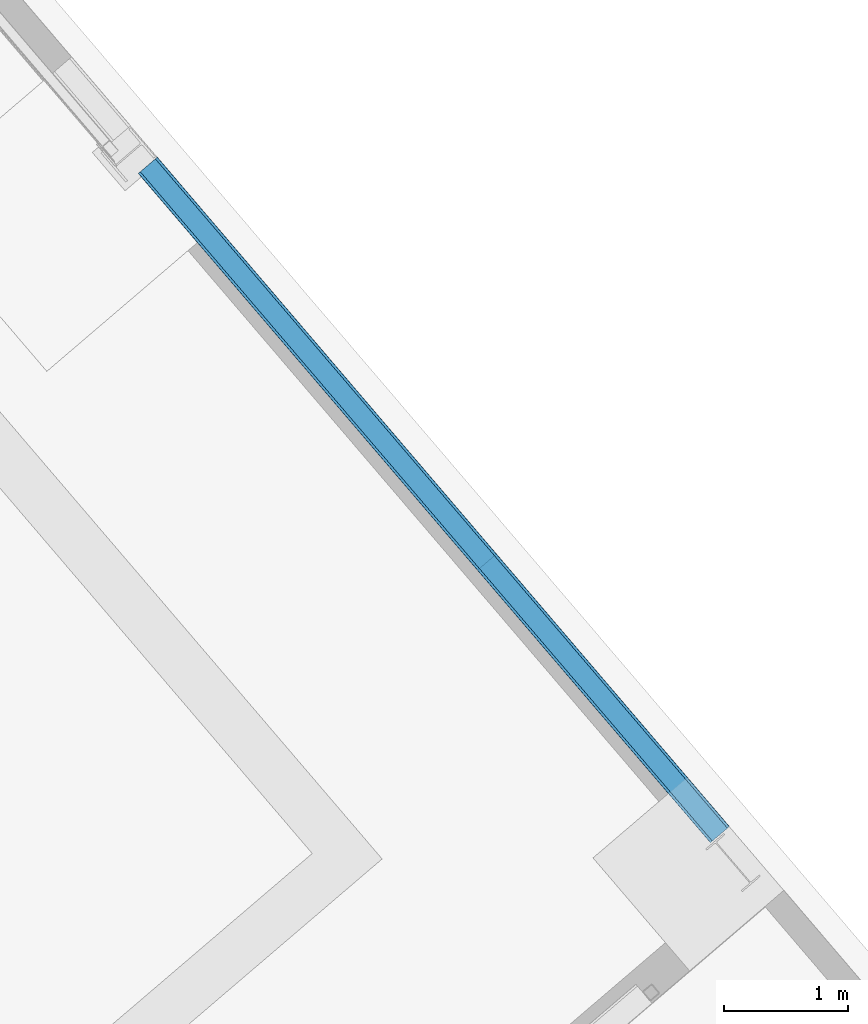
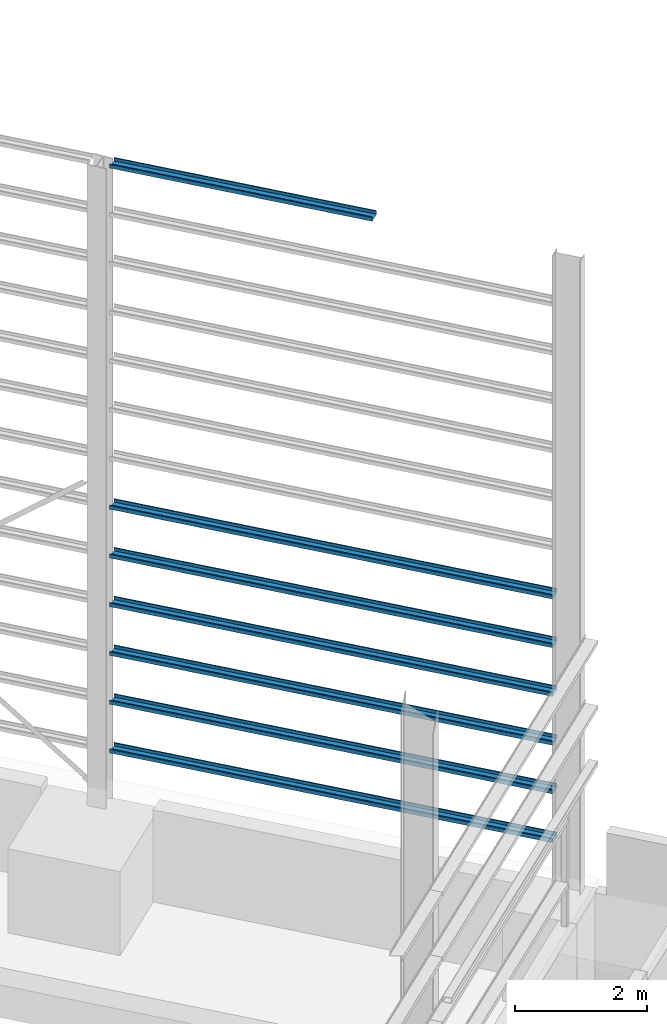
# One storey, part 25 of 41: 7 beams, 1 element without a shape of its own.
"""IFC2X3 building model written with IfcOpenShell, lengths in millimetres."""

from ifc_helpers import new_model, entity, si_unit, converted_unit, derived_unit, direction, frame, frame_2d, origin, place, context, subcontext, project, spatial, polyline, circle_curve, parameter, trimmed, segment, composite_curve, outline, extrude, material, type_object, element, aggregate, save


model = new_model("IFC2X3")

# Units and contexts
model_context = context("Model", 3, precision=0.01, world=origin(), true_north=direction((6.123031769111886e-17, 1.0)))
body_context = subcontext(model_context, "Body", "Model", "MODEL_VIEW")
ifc_project = project(units=[si_unit("LENGTHUNIT", "METRE", prefix="MILLI"), si_unit("AREAUNIT", "SQUARE_METRE"), si_unit("VOLUMEUNIT", "CUBIC_METRE"), converted_unit("PLANEANGLEUNIT", "DEGREE", entity("IfcRatioMeasure", 0.017453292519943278), si_unit("PLANEANGLEUNIT", "RADIAN"), dimensions=[0, 0, 0, 0, 0, 0, 0]), si_unit("MASSUNIT", "GRAM", prefix="KILO"), derived_unit("MASSDENSITYUNIT", [(si_unit("MASSUNIT", "GRAM", prefix="KILO"), 1), (si_unit("LENGTHUNIT", "METRE"), -3)]), derived_unit("MOMENTOFINERTIAUNIT", [(si_unit("LENGTHUNIT", "METRE"), 4)]), si_unit("TIMEUNIT", "SECOND"), si_unit("FREQUENCYUNIT", "HERTZ"), si_unit("THERMODYNAMICTEMPERATUREUNIT", "DEGREE_CELSIUS"), derived_unit("THERMALTRANSMITTANCEUNIT", [(si_unit("MASSUNIT", "GRAM", prefix="KILO"), 1), (si_unit("THERMODYNAMICTEMPERATUREUNIT", "KELVIN"), -1), (si_unit("TIMEUNIT", "SECOND"), -3)]), derived_unit("VOLUMETRICFLOWRATEUNIT", [(si_unit("LENGTHUNIT", "METRE"), 3), (si_unit("TIMEUNIT", "SECOND"), -1)]), derived_unit("MASSFLOWRATEUNIT", [(si_unit("MASSUNIT", "GRAM", prefix="KILO"), 1), (si_unit("TIMEUNIT", "SECOND"), -1)]), derived_unit("ROTATIONALFREQUENCYUNIT", [(si_unit("TIMEUNIT", "SECOND"), -1)]), si_unit("ELECTRICCURRENTUNIT", "AMPERE"), si_unit("ELECTRICVOLTAGEUNIT", "VOLT"), si_unit("POWERUNIT", "WATT"), si_unit("FORCEUNIT", "NEWTON", prefix="KILO"), si_unit("ILLUMINANCEUNIT", "LUX"), si_unit("LUMINOUSFLUXUNIT", "LUMEN"), si_unit("LUMINOUSINTENSITYUNIT", "CANDELA"), derived_unit("USERDEFINED", [(si_unit("MASSUNIT", "GRAM", prefix="KILO"), -1), (si_unit("LENGTHUNIT", "METRE"), -2), (si_unit("TIMEUNIT", "SECOND"), 3), (si_unit("LUMINOUSFLUXUNIT", "LUMEN"), 1)]), derived_unit("SOUNDPOWERUNIT", [(si_unit("MASSUNIT", "GRAM", prefix="KILO"), 1), (si_unit("LENGTHUNIT", "METRE"), 2), (si_unit("TIMEUNIT", "SECOND"), -3)]), derived_unit("LINEARVELOCITYUNIT", [(si_unit("LENGTHUNIT", "METRE"), 1), (si_unit("TIMEUNIT", "SECOND"), -1)]), si_unit("PRESSUREUNIT", "PASCAL"), derived_unit("USERDEFINED", [(si_unit("LENGTHUNIT", "METRE"), -2), (si_unit("MASSUNIT", "GRAM", prefix="KILO"), 1), (si_unit("TIMEUNIT", "SECOND"), -2)]), derived_unit("LINEARFORCEUNIT", [(si_unit("MASSUNIT", "GRAM", prefix="KILO"), 1), (si_unit("LENGTHUNIT", "METRE"), 1), (si_unit("TIMEUNIT", "SECOND"), -2), (si_unit("LENGTHUNIT", "METRE"), -1)]), derived_unit("PLANARFORCEUNIT", [(si_unit("MASSUNIT", "GRAM", prefix="KILO"), 1), (si_unit("LENGTHUNIT", "METRE"), 1), (si_unit("TIMEUNIT", "SECOND"), -2), (si_unit("LENGTHUNIT", "METRE"), -2)])], contexts=[model_context])

# Site, building, storey
site_placement = place(None, frame((962.4174930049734, -6014.433753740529, 0.0), z_axis=(0.0, 0.0, 1.0), x_axis=(0.7601792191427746, 0.649713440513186, 0.0)))
site = spatial("IfcSite", under=ifc_project, at=site_placement, Name="Default", CompositionType="ELEMENT")
building_placement = place(site_placement, origin())
building = spatial("IfcBuilding", under=site, at=building_placement, CompositionType="ELEMENT")
storey_placement = place(building_placement, origin())
storey = spatial("IfcBuildingStorey", under=building, at=storey_placement, Name="Datum", CompositionType="ELEMENT", Elevation=0.0)

# Assembly, beams
assembly_placement = place(building_placement, origin())
assembly = element("IfcElementAssembly", 1, at=assembly_placement, inside=storey, Name="Structural Beam System:Structural Beam System 1", ObjectType="Structural Beam System:Structural Beam System 1", AssemblyPlace="NOTDEFINED", PredefinedType="BEAM_GRID")
ifc_material = material(Name="Metal - Light Gauge")
beam_type = type_object("IfcBeamType", Name="ADSK_AUS_Light Gauge-Joists:C20015", PredefinedType="NOTDEFINED")
beam_1_placement = place(building_placement, frame((185748.56020470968, -22751.585747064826, 11413.962485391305), z_axis=(0.0, 0.0, 1.0), x_axis=(0.0, 1.0, 0.0)))
beam_1 = element("IfcBeam", 2, at=beam_1_placement, type_object=beam_type, material=ifc_material, Name="ADSK_AUS_Light Gauge-Joists:C20015", ObjectType="ADSK_AUS_Light Gauge-Joists:C20015", context=body_context, shape_type="SweptSolid", body=[
    extrude(outline(composite_curve([segment(polyline([(-25.691849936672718, -101.50000000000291), (39.49184993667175, -101.50000000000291)]), True, "CONTINUOUS"), segment(trimmed(circle_curve(frame_2d((39.49184993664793, -98.8418499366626), x_axis=(0.0, -1.0)), 2.6581500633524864), [parameter(0.0)], [parameter(89.99999999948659)], True, "PARAMETER"), True, "CONTINUOUS"), segment(polyline([(42.15000000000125, -98.8418499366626), (42.15000000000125, 98.84184993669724)]), True, "CONTINUOUS"), segment(trimmed(circle_curve(frame_2d((39.49184993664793, 98.84184993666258), x_axis=(1.0, 0.0)), 2.6581500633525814), [parameter(0.0)], [parameter(89.99999999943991)], True, "PARAMETER"), True, "CONTINUOUS"), segment(polyline([(39.491849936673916, 101.50000000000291), (-25.691849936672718, 101.50000000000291)]), True, "CONTINUOUS"), segment(trimmed(circle_curve(frame_2d((-25.691849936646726, 98.84184993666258), x_axis=(0.0, 1.0)), 2.6581500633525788), [parameter(0.0)], [parameter(89.99999999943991)], True, "PARAMETER"), True, "CONTINUOUS"), segment(polyline([(-28.350000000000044, 98.84184993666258), (-28.350000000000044, 80.0)]), True, "CONTINUOUS"), segment(polyline([(-28.350000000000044, 80.0), (-26.850000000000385, 80.0)]), True, "CONTINUOUS"), segment(polyline([(-26.849999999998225, 80.0), (-26.849999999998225, 98.42934993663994)]), True, "CONTINUOUS"), segment(trimmed(circle_curve(frame_2d((-25.27934993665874, 98.4293499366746), x_axis=(-1.0, 0.0)), 1.5706500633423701), [parameter(270.00000000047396)], [parameter(0.0)], True, "PARAMETER"), False, "CONTINUOUS"), segment(polyline([(-25.27934993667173, 100.0), (39.079349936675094, 100.0)]), True, "CONTINUOUS"), segment(trimmed(circle_curve(frame_2d((39.07934993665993, 98.4293499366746), x_axis=(0.0, 1.0)), 1.5706500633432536), [parameter(270.0000000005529)], [parameter(0.0)], True, "PARAMETER"), False, "CONTINUOUS"), segment(polyline([(40.65000000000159, 98.4293499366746), (40.65000000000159, -98.4293499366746)]), True, "CONTINUOUS"), segment(trimmed(circle_curve(frame_2d((39.07934993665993, -98.4293499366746), x_axis=(1.0, 0.0)), 1.5706500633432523), [parameter(270.0000000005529)], [parameter(0.0)], True, "PARAMETER"), False, "CONTINUOUS"), segment(polyline([(39.079349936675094, -100.0), (-25.27934993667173, -100.0)]), True, "CONTINUOUS"), segment(trimmed(circle_curve(frame_2d((-25.279349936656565, -98.4293499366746), x_axis=(0.0, -1.0)), 1.570650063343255), [parameter(270.0000000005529)], [parameter(0.0)], True, "PARAMETER"), False, "CONTINUOUS"), segment(polyline([(-26.849999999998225, -98.4293499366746), (-26.849999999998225, -80.0)]), True, "CONTINUOUS"), segment(polyline([(-26.849999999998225, -80.0), (-28.349999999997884, -80.0)]), True, "CONTINUOUS"), segment(polyline([(-28.350000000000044, -80.0), (-28.350000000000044, -98.84184993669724)]), True, "CONTINUOUS"), segment(trimmed(circle_curve(frame_2d((-25.6918499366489, -98.8418499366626), x_axis=(-1.0, 0.0)), 2.658150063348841), [parameter(0.0)], [parameter(89.99999999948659)], True, "PARAMETER"), True, "CONTINUOUS")], self_intersect=False)), frame((0.13508247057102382, -101.50000000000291, 42.15000000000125), z_axis=(1.0, 0.0, 0.0), x_axis=(0.0, 0.0, -1.0)), (0.0, 0.0, 1.0), 4213.999999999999),
])
beam_2_placement = place(building_placement, frame((185748.56020470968, -25672.328082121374, 5113.962485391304), z_axis=(0.0, 0.0, 1.0), x_axis=(0.0, 1.0, 0.0)))
beam_2 = element("IfcBeam", 3, at=beam_2_placement, type_object=beam_type, material=ifc_material, Name="ADSK_AUS_Light Gauge-Joists:C20015", ObjectType="ADSK_AUS_Light Gauge-Joists:C20015", context=body_context, shape_type="SweptSolid", body=[
    extrude(outline(composite_curve([segment(polyline([(-25.691849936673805, -101.50000000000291), (39.49184993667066, -101.50000000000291)]), True, "CONTINUOUS"), segment(trimmed(circle_curve(frame_2d((39.491849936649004, -98.8418499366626), x_axis=(0.0, -1.0)), 2.658150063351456), [parameter(0.0)], [parameter(89.99999999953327)], True, "PARAMETER"), True, "CONTINUOUS"), segment(polyline([(42.15000000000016, -98.8418499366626), (42.14999999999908, 98.84184993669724)]), True, "CONTINUOUS"), segment(trimmed(circle_curve(frame_2d((39.491849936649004, 98.84184993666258), x_axis=(1.0, 0.0)), 2.658150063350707), [parameter(0.0)], [parameter(89.99999999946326)], True, "PARAMETER"), True, "CONTINUOUS"), segment(polyline([(39.491849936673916, 101.50000000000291), (-25.691849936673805, 101.50000000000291)]), True, "CONTINUOUS"), segment(trimmed(circle_curve(frame_2d((-25.691849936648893, 98.84184993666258), x_axis=(0.0, 1.0)), 2.658150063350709), [parameter(0.0)], [parameter(89.99999999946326)], True, "PARAMETER"), True, "CONTINUOUS"), segment(polyline([(-28.35000000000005, 98.84184993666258), (-28.35000000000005, 80.0)]), True, "CONTINUOUS"), segment(polyline([(-28.35000000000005, 80.0), (-26.850000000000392, 80.0)]), True, "CONTINUOUS"), segment(polyline([(-26.850000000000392, 80.0), (-26.850000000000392, 98.42934993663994)]), True, "CONTINUOUS"), segment(trimmed(circle_curve(frame_2d((-25.279349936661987, 98.4293499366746), x_axis=(-1.0, 0.0)), 1.570650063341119), [parameter(270.00000000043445)], [parameter(0.0)], True, "PARAMETER"), False, "CONTINUOUS"), segment(polyline([(-25.279349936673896, 100.0), (39.079349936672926, 100.0)]), True, "CONTINUOUS"), segment(trimmed(circle_curve(frame_2d((39.0793499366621, 98.4293499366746), x_axis=(0.0, 1.0)), 1.570650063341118), [parameter(270.00000000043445)], [parameter(0.0)], True, "PARAMETER"), False, "CONTINUOUS"), segment(polyline([(40.6500000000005, 98.4293499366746), (40.65000000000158, -98.4293499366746)]), True, "CONTINUOUS"), segment(trimmed(circle_curve(frame_2d((39.0793499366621, -98.4293499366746), x_axis=(1.0, 0.0)), 1.570650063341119), [parameter(270.00000000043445)], [parameter(0.0)], True, "PARAMETER"), False, "CONTINUOUS"), segment(polyline([(39.07934993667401, -100.0), (-25.279349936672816, -100.0)]), True, "CONTINUOUS"), segment(trimmed(circle_curve(frame_2d((-25.279349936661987, -98.4293499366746), x_axis=(0.0, -1.0)), 1.570650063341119), [parameter(270.00000000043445)], [parameter(0.0)], True, "PARAMETER"), False, "CONTINUOUS"), segment(polyline([(-26.850000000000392, -98.4293499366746), (-26.850000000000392, -80.0)]), True, "CONTINUOUS"), segment(polyline([(-26.850000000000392, -80.0), (-28.35000000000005, -80.0)]), True, "CONTINUOUS"), segment(polyline([(-28.35000000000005, -80.0), (-28.35000000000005, -98.84184993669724)]), True, "CONTINUOUS"), segment(trimmed(circle_curve(frame_2d((-25.691849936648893, -98.8418499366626), x_axis=(-1.0, 0.0)), 2.6581500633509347), [parameter(0.0)], [parameter(89.99999999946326)], True, "PARAMETER"), True, "CONTINUOUS")], self_intersect=False)), frame((26.00624999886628, -101.50000000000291, 42.15000000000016), z_axis=(1.0, 0.0, 0.0), x_axis=(0.0, 0.0, -1.0)), (0.0, 0.0, 1.0), 7108.999999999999),
])
beam_3_placement = place(building_placement, frame((185748.56020470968, -25672.328082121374, 4213.962485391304), z_axis=(0.0, 0.0, 1.0), x_axis=(0.0, 1.0, 0.0)))
beam_3 = element("IfcBeam", 4, at=beam_3_placement, type_object=beam_type, material=ifc_material, Name="ADSK_AUS_Light Gauge-Joists:C20015", ObjectType="ADSK_AUS_Light Gauge-Joists:C20015", context=body_context, shape_type="SweptSolid", body=[
    extrude(outline(composite_curve([segment(polyline([(-25.691849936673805, -101.50000000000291), (39.49184993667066, -101.50000000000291)]), True, "CONTINUOUS"), segment(trimmed(circle_curve(frame_2d((39.491849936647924, -98.8418499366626), x_axis=(0.0, -1.0)), 2.6581500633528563), [parameter(0.0)], [parameter(89.99999999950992)], True, "PARAMETER"), True, "CONTINUOUS"), segment(polyline([(42.1500000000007, -98.8418499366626), (42.15000000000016, 98.84184993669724)]), True, "CONTINUOUS"), segment(trimmed(circle_curve(frame_2d((39.491849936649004, 98.84184993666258), x_axis=(1.0, 0.0)), 2.658150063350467), [parameter(0.0)], [parameter(89.99999999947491)], True, "PARAMETER"), True, "CONTINUOUS"), segment(polyline([(39.49184993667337, 101.50000000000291), (-25.691849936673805, 101.50000000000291)]), True, "CONTINUOUS"), segment(trimmed(circle_curve(frame_2d((-25.691849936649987, 98.84184993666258), x_axis=(0.0, 1.0)), 2.6581500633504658), [parameter(0.0)], [parameter(89.99999999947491)], True, "PARAMETER"), True, "CONTINUOUS"), segment(polyline([(-28.35000000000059, 98.84184993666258), (-28.35000000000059, 80.0)]), True, "CONTINUOUS"), segment(polyline([(-28.35000000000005, 80.0), (-26.849999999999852, 80.0)]), True, "CONTINUOUS"), segment(polyline([(-26.849999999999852, 80.0), (-26.849999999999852, 98.42934993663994)]), True, "CONTINUOUS"), segment(trimmed(circle_curve(frame_2d((-25.279349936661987, 98.4293499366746), x_axis=(-1.0, 0.0)), 1.570650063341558), [parameter(270.0000000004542)], [parameter(0.0)], True, "PARAMETER"), False, "CONTINUOUS"), segment(polyline([(-25.279349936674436, 100.0), (39.079349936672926, 100.0)]), True, "CONTINUOUS"), segment(trimmed(circle_curve(frame_2d((39.07934993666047, 98.4293499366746), x_axis=(0.0, 1.0)), 1.57065006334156), [parameter(270.0000000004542)], [parameter(0.0)], True, "PARAMETER"), False, "CONTINUOUS"), segment(polyline([(40.64999999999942, 98.4293499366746), (40.64999999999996, -98.4293499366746)]), True, "CONTINUOUS"), segment(trimmed(circle_curve(frame_2d((39.07934993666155, -98.4293499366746), x_axis=(1.0, 0.0)), 1.5706500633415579), [parameter(270.0000000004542)], [parameter(0.0)], True, "PARAMETER"), False, "CONTINUOUS"), segment(polyline([(39.07934993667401, -100.0), (-25.279349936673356, -100.0)]), True, "CONTINUOUS"), segment(trimmed(circle_curve(frame_2d((-25.279349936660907, -98.4293499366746), x_axis=(0.0, -1.0)), 1.5706500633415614), [parameter(270.0000000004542)], [parameter(0.0)], True, "PARAMETER"), False, "CONTINUOUS"), segment(polyline([(-26.849999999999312, -98.4293499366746), (-26.849999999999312, -80.0)]), True, "CONTINUOUS"), segment(polyline([(-26.849999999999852, -80.0), (-28.35000000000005, -80.0)]), True, "CONTINUOUS"), segment(polyline([(-28.35000000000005, -80.0), (-28.35000000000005, -98.84184993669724)]), True, "CONTINUOUS"), segment(trimmed(circle_curve(frame_2d((-25.691849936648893, -98.8418499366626), x_axis=(-1.0, 0.0)), 2.6581500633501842), [parameter(0.0)], [parameter(89.99999999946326)], True, "PARAMETER"), True, "CONTINUOUS")], self_intersect=False)), frame((26.00624999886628, -101.50000000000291, 42.15000000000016), z_axis=(1.0, 0.0, 0.0), x_axis=(0.0, 0.0, -1.0)), (0.0, 0.0, 1.0), 7108.999999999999),
])
beam_4_placement = place(building_placement, frame((185748.56020470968, -25672.328082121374, 3313.962485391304), z_axis=(0.0, 0.0, 1.0), x_axis=(0.0, 1.0, 0.0)))
beam_4 = element("IfcBeam", 5, at=beam_4_placement, type_object=beam_type, material=ifc_material, Name="ADSK_AUS_Light Gauge-Joists:C20015", ObjectType="ADSK_AUS_Light Gauge-Joists:C20015", context=body_context, shape_type="SweptSolid", body=[
    extrude(outline(composite_curve([segment(polyline([(-25.691849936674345, -101.50000000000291), (39.49184993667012, -101.50000000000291)]), True, "CONTINUOUS"), segment(trimmed(circle_curve(frame_2d((39.491849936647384, -98.8418499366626), x_axis=(0.0, -1.0)), 2.6581500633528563), [parameter(0.0)], [parameter(89.99999999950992)], True, "PARAMETER"), True, "CONTINUOUS"), segment(polyline([(42.15000000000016, -98.8418499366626), (42.14999999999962, 98.84184993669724)]), True, "CONTINUOUS"), segment(trimmed(circle_curve(frame_2d((39.491849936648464, 98.84184993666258), x_axis=(1.0, 0.0)), 2.658150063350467), [parameter(0.0)], [parameter(89.99999999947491)], True, "PARAMETER"), True, "CONTINUOUS"), segment(polyline([(39.49184993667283, 101.50000000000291), (-25.691849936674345, 101.50000000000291)]), True, "CONTINUOUS"), segment(trimmed(circle_curve(frame_2d((-25.691849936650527, 98.84184993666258), x_axis=(0.0, 1.0)), 2.6581500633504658), [parameter(0.0)], [parameter(89.99999999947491)], True, "PARAMETER"), True, "CONTINUOUS"), segment(polyline([(-28.35000000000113, 98.84184993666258), (-28.35000000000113, 80.0)]), True, "CONTINUOUS"), segment(polyline([(-28.35000000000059, 80.0), (-26.850000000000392, 80.0)]), True, "CONTINUOUS"), segment(polyline([(-26.850000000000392, 80.0), (-26.850000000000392, 98.42934993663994)]), True, "CONTINUOUS"), segment(trimmed(circle_curve(frame_2d((-25.279349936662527, 98.4293499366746), x_axis=(-1.0, 0.0)), 1.570650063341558), [parameter(270.0000000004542)], [parameter(0.0)], True, "PARAMETER"), False, "CONTINUOUS"), segment(polyline([(-25.279349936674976, 100.0), (39.079349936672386, 100.0)]), True, "CONTINUOUS"), segment(trimmed(circle_curve(frame_2d((39.07934993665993, 98.4293499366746), x_axis=(0.0, 1.0)), 1.57065006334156), [parameter(270.0000000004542)], [parameter(0.0)], True, "PARAMETER"), False, "CONTINUOUS"), segment(polyline([(40.64999999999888, 98.4293499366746), (40.64999999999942, -98.4293499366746)]), True, "CONTINUOUS"), segment(trimmed(circle_curve(frame_2d((39.07934993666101, -98.4293499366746), x_axis=(1.0, 0.0)), 1.5706500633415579), [parameter(270.0000000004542)], [parameter(0.0)], True, "PARAMETER"), False, "CONTINUOUS"), segment(polyline([(39.07934993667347, -100.0), (-25.279349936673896, -100.0)]), True, "CONTINUOUS"), segment(trimmed(circle_curve(frame_2d((-25.279349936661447, -98.4293499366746), x_axis=(0.0, -1.0)), 1.5706500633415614), [parameter(270.0000000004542)], [parameter(0.0)], True, "PARAMETER"), False, "CONTINUOUS"), segment(polyline([(-26.849999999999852, -98.4293499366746), (-26.849999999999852, -80.0)]), True, "CONTINUOUS"), segment(polyline([(-26.850000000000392, -80.0), (-28.35000000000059, -80.0)]), True, "CONTINUOUS"), segment(polyline([(-28.35000000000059, -80.0), (-28.35000000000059, -98.84184993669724)]), True, "CONTINUOUS"), segment(trimmed(circle_curve(frame_2d((-25.691849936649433, -98.8418499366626), x_axis=(-1.0, 0.0)), 2.6581500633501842), [parameter(0.0)], [parameter(89.99999999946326)], True, "PARAMETER"), True, "CONTINUOUS")], self_intersect=False)), frame((26.00624999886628, -101.50000000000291, 42.14999999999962), z_axis=(1.0, 0.0, 0.0), x_axis=(0.0, 0.0, -1.0)), (0.0, 0.0, 1.0), 7108.999999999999),
])
beam_5_placement = place(building_placement, frame((185748.56020470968, -25672.328082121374, 2413.962485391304), z_axis=(0.0, 0.0, 1.0), x_axis=(0.0, 1.0, 0.0)))
beam_5 = element("IfcBeam", 6, at=beam_5_placement, type_object=beam_type, material=ifc_material, Name="ADSK_AUS_Light Gauge-Joists:C20015", ObjectType="ADSK_AUS_Light Gauge-Joists:C20015", context=body_context, shape_type="SweptSolid", body=[
    extrude(outline(composite_curve([segment(polyline([(-25.691849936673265, -101.50000000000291), (39.4918499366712, -101.50000000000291)]), True, "CONTINUOUS"), segment(trimmed(circle_curve(frame_2d((39.491849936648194, -98.8418499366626), x_axis=(0.0, -1.0)), 2.658150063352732), [parameter(0.0)], [parameter(89.99999999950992)], True, "PARAMETER"), True, "CONTINUOUS"), segment(polyline([(42.15000000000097, -98.8418499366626), (42.15000000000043, 98.84184993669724)]), True, "CONTINUOUS"), segment(trimmed(circle_curve(frame_2d((39.491849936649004, 98.84184993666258), x_axis=(1.0, 0.0)), 2.6581500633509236), [parameter(0.0)], [parameter(89.99999999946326)], True, "PARAMETER"), True, "CONTINUOUS"), segment(polyline([(39.49184993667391, 101.50000000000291), (-25.691849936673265, 101.50000000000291)]), True, "CONTINUOUS"), segment(trimmed(circle_curve(frame_2d((-25.691849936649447, 98.84184993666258), x_axis=(0.0, 1.0)), 2.6581500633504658), [parameter(0.0)], [parameter(89.99999999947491)], True, "PARAMETER"), True, "CONTINUOUS"), segment(polyline([(-28.35000000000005, 98.84184993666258), (-28.35000000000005, 80.0)]), True, "CONTINUOUS"), segment(polyline([(-28.34999999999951, 80.0), (-26.849999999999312, 80.0)]), True, "CONTINUOUS"), segment(polyline([(-26.849999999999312, 80.0), (-26.849999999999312, 98.42934993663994)]), True, "CONTINUOUS"), segment(trimmed(circle_curve(frame_2d((-25.279349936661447, 98.4293499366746), x_axis=(-1.0, 0.0)), 1.570650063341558), [parameter(270.0000000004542)], [parameter(0.0)], True, "PARAMETER"), False, "CONTINUOUS"), segment(polyline([(-25.279349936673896, 100.0), (39.07934993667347, 100.0)]), True, "CONTINUOUS"), segment(trimmed(circle_curve(frame_2d((39.07934993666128, 98.4293499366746), x_axis=(0.0, 1.0)), 1.5706500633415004), [parameter(270.00000000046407)], [parameter(0.0)], True, "PARAMETER"), False, "CONTINUOUS"), segment(polyline([(40.6500000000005, 98.4293499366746), (40.65000000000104, -98.4293499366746)]), True, "CONTINUOUS"), segment(trimmed(circle_curve(frame_2d((39.07934993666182, -98.4293499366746), x_axis=(1.0, 0.0)), 1.5706500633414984), [parameter(270.00000000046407)], [parameter(0.0)], True, "PARAMETER"), False, "CONTINUOUS"), segment(polyline([(39.07934993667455, -100.0), (-25.279349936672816, -100.0)]), True, "CONTINUOUS"), segment(trimmed(circle_curve(frame_2d((-25.279349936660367, -98.4293499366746), x_axis=(0.0, -1.0)), 1.5706500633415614), [parameter(270.0000000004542)], [parameter(0.0)], True, "PARAMETER"), False, "CONTINUOUS"), segment(polyline([(-26.849999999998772, -98.4293499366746), (-26.849999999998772, -80.0)]), True, "CONTINUOUS"), segment(polyline([(-26.849999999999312, -80.0), (-28.34999999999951, -80.0)]), True, "CONTINUOUS"), segment(polyline([(-28.34999999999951, -80.0), (-28.34999999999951, -98.84184993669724)]), True, "CONTINUOUS"), segment(trimmed(circle_curve(frame_2d((-25.691849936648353, -98.8418499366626), x_axis=(-1.0, 0.0)), 2.6581500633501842), [parameter(0.0)], [parameter(89.99999999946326)], True, "PARAMETER"), True, "CONTINUOUS")], self_intersect=False)), frame((26.00624999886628, -101.50000000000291, 42.1500000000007), z_axis=(1.0, 0.0, 0.0), x_axis=(0.0, 0.0, -1.0)), (0.0, 0.0, 1.0), 7108.999999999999),
])
beam_6_placement = place(building_placement, frame((185748.56020470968, -25672.328082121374, 1513.9624853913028), z_axis=(0.0, 0.0, 1.0), x_axis=(0.0, 1.0, 0.0)))
beam_6 = element("IfcBeam", 7, at=beam_6_placement, type_object=beam_type, material=ifc_material, Name="ADSK_AUS_Light Gauge-Joists:C20015", ObjectType="ADSK_AUS_Light Gauge-Joists:C20015", context=body_context, shape_type="SweptSolid", body=[
    extrude(outline(composite_curve([segment(polyline([(-25.691849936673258, -101.50000000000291), (39.49184993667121, -101.50000000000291)]), True, "CONTINUOUS"), segment(trimmed(circle_curve(frame_2d((39.49184993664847, -98.8418499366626), x_axis=(0.0, -1.0)), 2.658150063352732), [parameter(0.0)], [parameter(89.99999999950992)], True, "PARAMETER"), True, "CONTINUOUS"), segment(polyline([(42.15000000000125, -98.8418499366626), (42.15000000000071, 98.84184993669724)]), True, "CONTINUOUS"), segment(trimmed(circle_curve(frame_2d((39.49184993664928, 98.84184993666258), x_axis=(1.0, 0.0)), 2.6581500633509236), [parameter(0.0)], [parameter(89.99999999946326)], True, "PARAMETER"), True, "CONTINUOUS"), segment(polyline([(39.491849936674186, 101.50000000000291), (-25.691849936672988, 101.50000000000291)]), True, "CONTINUOUS"), segment(trimmed(circle_curve(frame_2d((-25.691849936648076, 98.84184993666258), x_axis=(0.0, 1.0)), 2.658150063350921), [parameter(0.0)], [parameter(89.99999999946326)], True, "PARAMETER"), True, "CONTINUOUS"), segment(polyline([(-28.349999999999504, 98.84184993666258), (-28.349999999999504, 80.0)]), True, "CONTINUOUS"), segment(polyline([(-28.349999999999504, 80.0), (-26.849999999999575, 80.0)]), True, "CONTINUOUS"), segment(polyline([(-26.849999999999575, 80.0), (-26.849999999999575, 98.42934993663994)]), True, "CONTINUOUS"), segment(trimmed(circle_curve(frame_2d((-25.27934993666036, 98.4293499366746), x_axis=(-1.0, 0.0)), 1.5706500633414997), [parameter(270.00000000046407)], [parameter(0.0)], True, "PARAMETER"), False, "CONTINUOUS"), segment(polyline([(-25.27934993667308, 100.0), (39.079349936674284, 100.0)]), True, "CONTINUOUS"), segment(trimmed(circle_curve(frame_2d((39.07934993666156, 98.4293499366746), x_axis=(0.0, 1.0)), 1.5706500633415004), [parameter(270.00000000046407)], [parameter(0.0)], True, "PARAMETER"), False, "CONTINUOUS"), segment(polyline([(40.65000000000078, 98.4293499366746), (40.65000000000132, -98.4293499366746)]), True, "CONTINUOUS"), segment(trimmed(circle_curve(frame_2d((39.0793499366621, -98.4293499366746), x_axis=(1.0, 0.0)), 1.5706500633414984), [parameter(270.00000000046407)], [parameter(0.0)], True, "PARAMETER"), False, "CONTINUOUS"), segment(polyline([(39.079349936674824, -100.0), (-25.27934993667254, -100.0)]), True, "CONTINUOUS"), segment(trimmed(circle_curve(frame_2d((-25.27934993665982, -98.4293499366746), x_axis=(0.0, -1.0)), 1.5706500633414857), [parameter(270.00000000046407)], [parameter(0.0)], True, "PARAMETER"), False, "CONTINUOUS"), segment(polyline([(-26.849999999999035, -98.4293499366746), (-26.849999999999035, -80.0)]), True, "CONTINUOUS"), segment(polyline([(-26.849999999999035, -80.0), (-28.349999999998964, -80.0)]), True, "CONTINUOUS"), segment(polyline([(-28.349999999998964, -80.0), (-28.349999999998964, -98.84184993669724)]), True, "CONTINUOUS"), segment(trimmed(circle_curve(frame_2d((-25.691849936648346, -98.8418499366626), x_axis=(-1.0, 0.0)), 2.6581500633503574), [parameter(0.0)], [parameter(89.99999999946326)], True, "PARAMETER"), True, "CONTINUOUS")], self_intersect=False)), frame((26.00624999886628, -101.50000000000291, 42.15000000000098), z_axis=(1.0, 0.0, 0.0), x_axis=(0.0, 0.0, -1.0)), (0.0, 0.0, 1.0), 7108.999999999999),
])
beam_7_placement = place(building_placement, frame((185748.56020470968, -25672.328082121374, 613.9624853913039), z_axis=(0.0, 0.0, 1.0), x_axis=(0.0, 1.0, 0.0)))
beam_7 = element("IfcBeam", 8, at=beam_7_placement, type_object=beam_type, material=ifc_material, Name="ADSK_AUS_Light Gauge-Joists:C20015", ObjectType="ADSK_AUS_Light Gauge-Joists:C20015", context=body_context, shape_type="SweptSolid", body=[
    extrude(outline(composite_curve([segment(polyline([(-25.69184993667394, -101.50000000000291), (39.491849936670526, -101.50000000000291)]), True, "CONTINUOUS"), segment(trimmed(circle_curve(frame_2d((39.49184993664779, -98.8418499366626), x_axis=(0.0, -1.0)), 2.658150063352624), [parameter(0.0)], [parameter(89.99999999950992)], True, "PARAMETER"), True, "CONTINUOUS"), segment(polyline([(42.15000000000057, -98.8418499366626), (42.14999999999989, 98.84184993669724)]), True, "CONTINUOUS"), segment(trimmed(circle_curve(frame_2d((39.491849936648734, 98.84184993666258), x_axis=(1.0, 0.0)), 2.6581500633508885), [parameter(0.0)], [parameter(89.99999999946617)], True, "PARAMETER"), True, "CONTINUOUS"), segment(polyline([(39.4918499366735, 101.50000000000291), (-25.691849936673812, 101.50000000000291)]), True, "CONTINUOUS"), segment(trimmed(circle_curve(frame_2d((-25.691849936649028, 98.84184993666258), x_axis=(0.0, 1.0)), 2.6581500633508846), [parameter(0.0)], [parameter(89.99999999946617)], True, "PARAMETER"), True, "CONTINUOUS"), segment(polyline([(-28.350000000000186, 98.84184993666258), (-28.350000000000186, 80.0)]), True, "CONTINUOUS"), segment(polyline([(-28.350000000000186, 80.0), (-26.850000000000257, 80.0)]), True, "CONTINUOUS"), segment(polyline([(-26.850000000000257, 80.0), (-26.850000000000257, 98.42934993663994)]), True, "CONTINUOUS"), segment(trimmed(circle_curve(frame_2d((-25.279349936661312, 98.4293499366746), x_axis=(-1.0, 0.0)), 1.5706500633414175), [parameter(270.0000000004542)], [parameter(0.0)], True, "PARAMETER"), False, "CONTINUOUS"), segment(polyline([(-25.27934993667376, 100.0), (39.0793499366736, 100.0)]), True, "CONTINUOUS"), segment(trimmed(circle_curve(frame_2d((39.079349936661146, 98.4293499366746), x_axis=(0.0, 1.0)), 1.570650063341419), [parameter(270.0000000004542)], [parameter(0.0)], True, "PARAMETER"), False, "CONTINUOUS"), segment(polyline([(40.64999999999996, 98.4293499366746), (40.65000000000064, -98.4293499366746)]), True, "CONTINUOUS"), segment(trimmed(circle_curve(frame_2d((39.079349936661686, -98.4293499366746), x_axis=(1.0, 0.0)), 1.570650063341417), [parameter(270.0000000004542)], [parameter(0.0)], True, "PARAMETER"), False, "CONTINUOUS"), segment(polyline([(39.07934993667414, -100.0), (-25.27934993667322, -100.0)]), True, "CONTINUOUS"), segment(trimmed(circle_curve(frame_2d((-25.279349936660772, -98.4293499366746), x_axis=(0.0, -1.0)), 1.5706500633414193), [parameter(270.0000000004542)], [parameter(0.0)], True, "PARAMETER"), False, "CONTINUOUS"), segment(polyline([(-26.849999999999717, -98.4293499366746), (-26.849999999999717, -80.0)]), True, "CONTINUOUS"), segment(polyline([(-26.849999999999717, -80.0), (-28.349999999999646, -80.0)]), True, "CONTINUOUS"), segment(polyline([(-28.349999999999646, -80.0), (-28.349999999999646, -98.84184993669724)]), True, "CONTINUOUS"), segment(trimmed(circle_curve(frame_2d((-25.6918499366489, -98.8418499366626), x_axis=(-1.0, 0.0)), 2.6581500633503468), [parameter(0.0)], [parameter(89.99999999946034)], True, "PARAMETER"), True, "CONTINUOUS")], self_intersect=False)), frame((26.00624999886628, -101.50000000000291, 42.1500000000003), z_axis=(1.0, 0.0, 0.0), x_axis=(0.0, 0.0, -1.0)), (0.0, 0.0, 1.0), 7108.999999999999),
])
aggregate(assembly, [beam_1, beam_2, beam_3, beam_4, beam_5, beam_6, beam_7])

save(model, "model.ifc")
